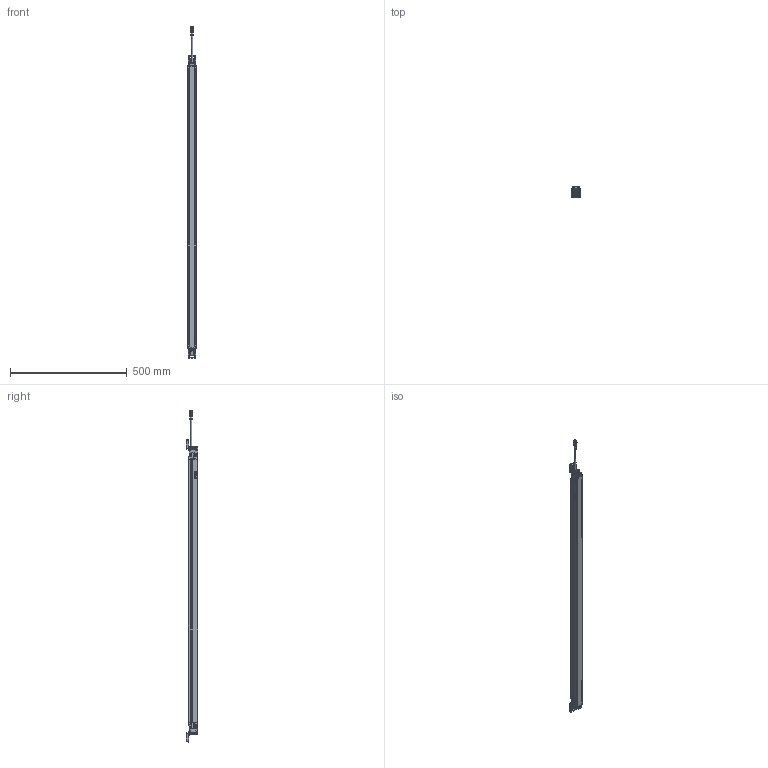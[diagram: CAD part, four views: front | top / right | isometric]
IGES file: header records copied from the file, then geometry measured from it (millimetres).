
Global section: file name: H304897_A_PSEN_opIIXX-s-yy-120_Kundendaten; native system: Autodesk Inventor 2017; preprocessor: unknown; author: jebe; date: 20160701.093314; units: millimetre
Bounding box: 35.02 x 48 x 1421.5 mm (x, y, z)
Volume: 1609078 mm3; surface area: 259523.5 mm2
Topology: 6 solids, 8 shells, 4111 faces, 10149 edges, 6046 vertices
Faces by surface type: bspline 4111
